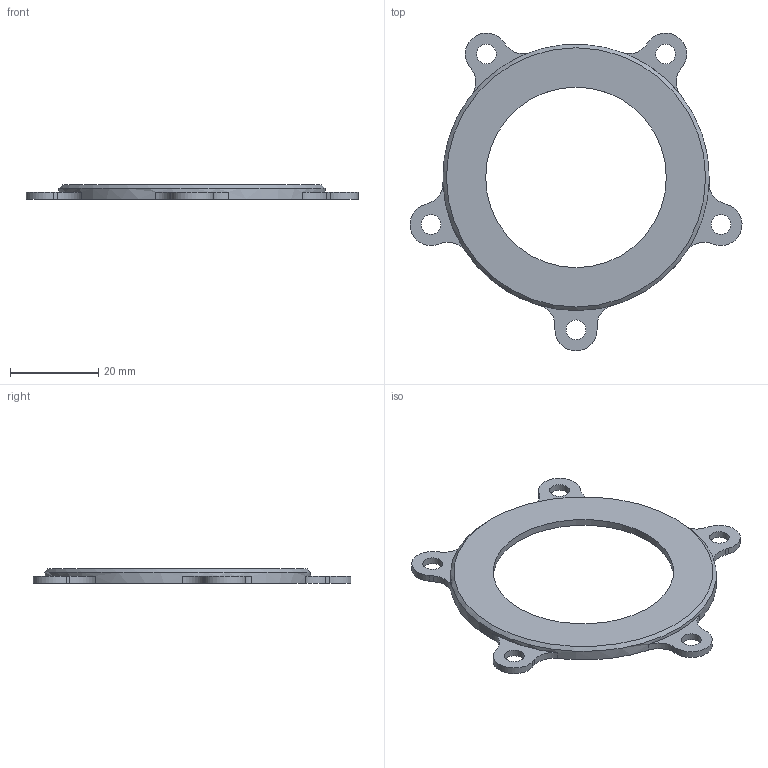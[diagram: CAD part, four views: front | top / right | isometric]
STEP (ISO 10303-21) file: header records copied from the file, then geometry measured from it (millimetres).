
FILE_DESCRIPTION(/* description */ ('STEP AP242 Edition 2','CAx-IF Rec.Pracs.---Representation and Presentation of Product Manufacturing Information (PMI)---4.0---2014-10-13','CAx-IF Rec.Pracs.---3D Tessellated Geometry---0.4---2014-09-14','2;1','CAx-IF Rec.Pracs.---User Defined Attributes---1.5---2016-08-15'),/* implementation_level */ '2;1');
FILE_NAME(/* name */ 'Main - Top',/* time_stamp */ '2026-09-22T02:10:48Z',/* author */ (''),/* organization */ (''),/* preprocessor_version */ 'ST-DEVELOPER v20',/* originating_system */ 'ONSHAPE BY PTC INC, 1.221',/* authorisation */ ' ');
FILE_SCHEMA (('AP242_MANAGED_MODEL_BASED_3D_ENGINEERING_MIM_LF { 1 0 10303 442 3 1 4 }'));
Length unit declared in the file: metre
Products named in the file (1): Top
Bounding box: 75.23 x 72.01 x 3.17 mm (x, y, z)
Volume: 3835.4 mm3; surface area: 4964.1 mm2
Topology: 1 solids, 1 shells, 42 faces, 116 edges, 77 vertices
Faces by surface type: cylinder 23, plane 18, cone 1
Full cylindrical faces by diameter (mm): 4.5 x5, 40.926 x1, 53.975 x1, 60.325 x1
Entity records: 1360 total; most frequent: DIRECTION 248, CARTESIAN_POINT 225, ORIENTED_EDGE 212, EDGE_CURVE 106, AXIS2_PLACEMENT_3D 99, VERTEX_POINT 76, EDGE_LOOP 64, FACE_BOUND 64
